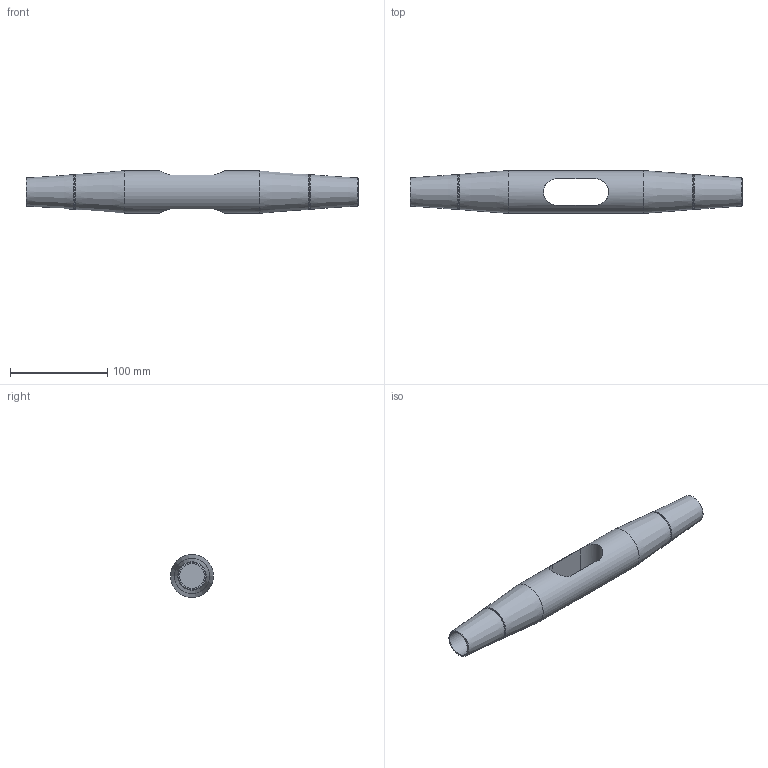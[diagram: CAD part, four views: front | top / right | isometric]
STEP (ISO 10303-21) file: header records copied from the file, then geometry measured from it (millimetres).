
FILE_DESCRIPTION(/* description */ (''),/* implementation_level */ '2;1');
FILE_NAME(/* name */ 'G:\Engineering\700 CAD\Internet-PX-1-step-igs-dxf\520-KMF-Arbeitsdateien\520-024-KMF.stp',/* time_stamp */ '2020-07-02T13:19:54+02:00',/* author */ ('schwarz'),/* organization */ (''),/* preprocessor_version */ 'ST-DEVELOPER v16.1',/* originating_system */ 'Autodesk Inventor 2016',/* authorisation */ '');
FILE_SCHEMA (('AUTOMOTIVE_DESIGN { 1 0 10303 214 3 1 1 }'));
Length unit declared in the file: centimetre
Products named in the file (1): Kreuzmuffen-Set 520 024 Kunde
Bounding box: 341 x 44 x 44 mm (x, y, z)
Volume: 316088.1 mm3; surface area: 52501.5 mm2
Topology: 1 solids, 1 shells, 23 faces, 43 edges, 26 vertices
Faces by surface type: cone 10, plane 8, cylinder 5
Full cylindrical faces by diameter (mm): 25.5 x2, 44 x1
Entity records: 663 total; most frequent: CARTESIAN_POINT 180, DIRECTION 92, ORIENTED_EDGE 60, EDGE_LOOP 42, AXIS2_PLACEMENT_3D 42, EDGE_CURVE 30, VERTEX_POINT 26, STYLED_ITEM 24
